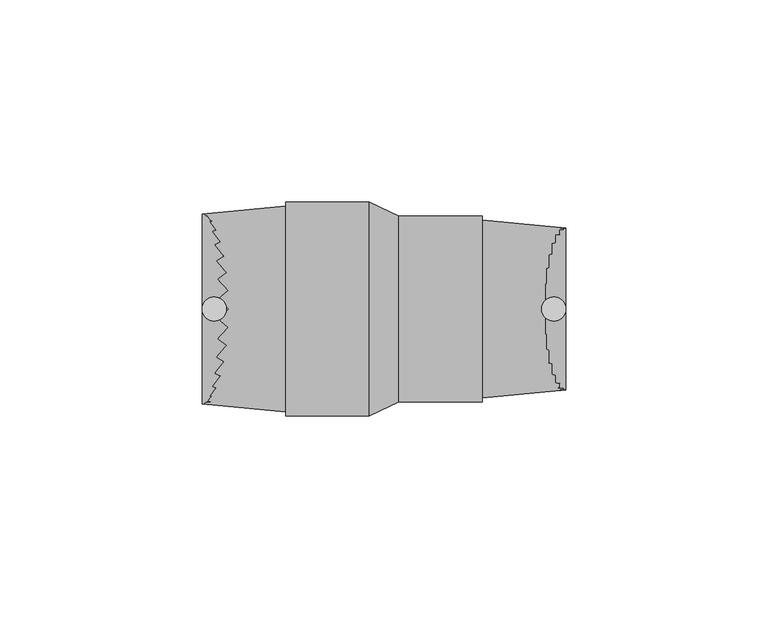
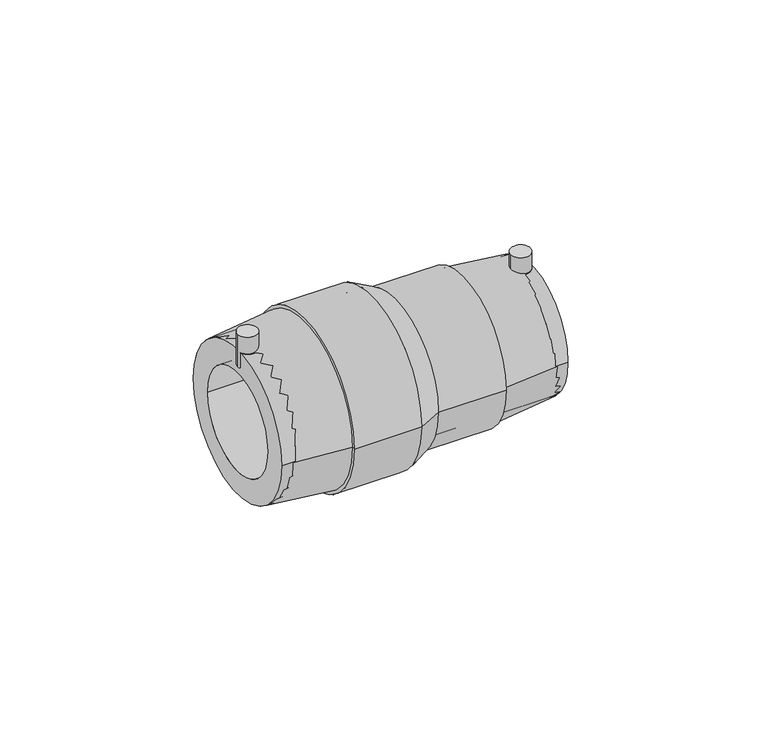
"""IFC4 building model written with IfcOpenShell, lengths in millimetres: pipe fitting geometry, EGB_VASEN_ PPR_Manguito reductor electrosoldable WXRD110 : Manguito reductor electrosoldable WXRD110."""

from ifc_helpers import new_model, si_unit, point, frame, frame_2d, origin, origin_2d, place, context, project, spatial, polyline, circle_curve, trimmed, segment, composite_curve, outline, extrude, source, transform, mapped, element, save
from ifc_brep_helpers import plane_surface, cylinder_surface, revolved_surface, advanced_brep


def pipe_fitting_251d8cda(model_context):
    return source(origin(), model_context, "Body", "SolidModel", [
        extrude(outline(composite_curve([segment(trimmed(circle_curve(frame_2d((42.0, 0.0)), 3.0), [point((39.0, 0.0))], [point((45.0, 0.0))], False, "CARTESIAN"), True, "CONTINUOUS"), segment(trimmed(circle_curve(frame_2d((42.0, 0.0)), 3.0), [point((45.0, 0.0))], [point((39.0, 0.0))], False, "CARTESIAN"), True, "CONTINUOUS")], self_intersect=False)), frame((0.0, 0.0, 14.5), z_axis=(0.0, 0.0, 1.0), x_axis=(1.0, 0.0, 0.0)), (0.0, 0.0, 1.0), 10.5),
        extrude(outline(composite_curve([segment(trimmed(circle_curve(frame_2d((-42.0, 0.0)), 3.0), [point((-45.0, 0.0))], [point((-39.0, 0.0))], False, "CARTESIAN"), True, "CONTINUOUS"), segment(trimmed(circle_curve(frame_2d((-42.0, 0.0)), 3.0), [point((-39.0, 0.0))], [point((-45.0, 0.0))], False, "CARTESIAN"), True, "CONTINUOUS")], self_intersect=False)), frame((0.0, 0.0, 18.0), z_axis=(0.0, 0.0, 1.0), x_axis=(1.0, 0.0, 0.0)), (0.0, 0.0, 1.0), 10.5),
        extrude(outline(composite_curve([segment(trimmed(circle_curve(origin_2d(), 20.0), [point((-20.0, 0.0))], [point((20.0, 0.0))], False, "CARTESIAN"), True, "CONTINUOUS"), segment(trimmed(circle_curve(origin_2d(), 20.0), [point((20.0, 0.0))], [point((-20.0, 0.0))], False, "CARTESIAN"), True, "CONTINUOUS")], self_intersect=False), holes=[composite_curve([segment(trimmed(circle_curve(origin_2d(), 12.5), [point((-12.5, 0.0))], [point((12.5, 0.0))], True, "CARTESIAN"), True, "CONTINUOUS"), segment(trimmed(circle_curve(origin_2d(), 12.5), [point((12.5, 0.0))], [point((-12.5, 0.0))], True, "CARTESIAN"), True, "CONTINUOUS")], self_intersect=False)]), frame((3.6, 0.0, 0.0), z_axis=(1.0, 0.0, 0.0), x_axis=(0.0, 1.0, 0.0)), (0.0, 0.0, 1.0), 41.4),
        extrude(outline(composite_curve([segment(trimmed(circle_curve(origin_2d(), 23.5), [point((-23.5, 0.0))], [point((23.5, 0.0))], False, "CARTESIAN"), True, "CONTINUOUS"), segment(trimmed(circle_curve(origin_2d(), 23.5), [point((23.5, 0.0))], [point((-23.5, 0.0))], False, "CARTESIAN"), True, "CONTINUOUS")], self_intersect=False), holes=[composite_curve([segment(trimmed(circle_curve(origin_2d(), 16.0), [point((-16.0, 0.0))], [point((16.0, 0.0))], True, "CARTESIAN"), True, "CONTINUOUS"), segment(trimmed(circle_curve(origin_2d(), 16.0), [point((16.0, 0.0))], [point((-16.0, 0.0))], True, "CARTESIAN"), True, "CONTINUOUS")], self_intersect=False)]), frame((-45.0, 0.0, 0.0), z_axis=(1.0, 0.0, 0.0), x_axis=(0.0, 1.0, 0.0)), (0.0, 0.0, 1.0), 41.4),
        advanced_brep(
        [(3.6, -20.0, 0.0), (3.6, 20.0, 0.0), (-3.6, -23.5, 0.0), (-3.6, 23.5, 0.0)],
        [
            (0, 1, circle_curve(frame((3.6, 0.0, 0.0), z_axis=(1.0, 0.0, 0.0), x_axis=(0.0, -1.0, 0.0)), 20.0)),
            (1, 0, circle_curve(frame((3.6, 0.0, 0.0), z_axis=(1.0, 0.0, 0.0), x_axis=(0.0, 1.0, 0.0)), 20.0)),
            (2, 3, circle_curve(frame((-3.6, 0.0, 0.0), z_axis=(-1.0, 0.0, 0.0), x_axis=(0.0, 1.0, 0.0)), 23.5)),
            (3, 2, circle_curve(frame((-3.6, 0.0, 0.0), z_axis=(-1.0, 0.0, 0.0), x_axis=(0.0, -1.0, 0.0)), 23.5)),
            (3, 1),
            (0, 2),
        ],
        [
            plane_surface(frame((3.6, 0.0, 0.0), z_axis=(1.0, 0.0, 0.0), x_axis=(0.0, 0.0, -1.0))),
            plane_surface(frame((-3.6, 0.0, 0.0), z_axis=(-1.0, 0.0, 0.0), x_axis=(0.0, 0.0, -1.0))),
            revolved_surface(polyline([(3.6000000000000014, -19.99999999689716, 0.0), (-3.6000000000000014, -23.5, 0.0)]), (44.7428571, 0.0, 0.0), (-1.0, 0.0, 0.0)),
            revolved_surface(polyline([(3.6000000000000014, 19.99999999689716, 0.0), (-3.6000000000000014, 23.5, 0.0)]), (44.7428571, 0.0, 0.0), (-1.0, 0.0, 0.0)),
        ],
        [
            (0, [[1, 2]]),
            (1, [[3, 4]]),
            (2, [[-4, 5, -1, 6]]),
            (3, [[-3, -6, -2, -5]]),
        ],
    ),
        advanced_brep(
        [(3.6, -20.0, 0.0), (3.6, 20.0, 0.0), (-3.6, 23.5, 0.0), (-3.6, -23.5, 0.0), (45.0, -20.0, 0.0), (45.0, 20.0, 0.0), (24.3, -22.0, 0.0), (24.3, 22.0, 0.0), (24.3, -23.0, 0.0), (24.3, 23.0, 0.0), (3.6, -23.0, 0.0), (3.6, 23.0, 0.0), (-3.6, -26.5, 0.0), (-3.6, 26.5, 0.0), (-24.3, -26.5, 0.0), (-24.3, 26.5, 0.0), (-24.3, -25.5, 0.0), (-24.3, 25.5, 0.0), (-45.0, -23.5, 0.0), (-45.0, 23.5, 0.0)],
        [
            (0, 1, circle_curve(frame((3.6, 0.0, 0.0), z_axis=(1.0, 0.0, 0.0), x_axis=(0.0, 1.0, 0.0)), 20.0)),
            (1, 2),
            (2, 3, circle_curve(frame((-3.6, 0.0, 0.0), z_axis=(-1.0, 0.0, 0.0), x_axis=(0.0, 1.0, 0.0)), 23.5)),
            (3, 0),
            (1, 0, circle_curve(frame((3.6, 0.0, 0.0), z_axis=(1.0, 0.0, 0.0), x_axis=(0.0, 1.0, 0.0)), 20.0)),
            (3, 2, circle_curve(frame((-3.6, 0.0, 0.0), z_axis=(-1.0, 0.0, 0.0), x_axis=(0.0, 1.0, 0.0)), 23.5)),
            (4, 5, circle_curve(frame((45.0, 0.0, 0.0), z_axis=(1.0, 0.0, 0.0), x_axis=(0.0, 1.0, 0.0)), 20.0)),
            (5, 1),
            (0, 4),
            (5, 4, circle_curve(frame((45.0, 0.0, 0.0), z_axis=(1.0, 0.0, 0.0), x_axis=(0.0, 1.0, 0.0)), 20.0)),
            (6, 7, circle_curve(frame((24.3, 0.0, 0.0), z_axis=(1.0, 0.0, 0.0), x_axis=(0.0, 1.0, 0.0)), 22.0)),
            (7, 5),
            (4, 6),
            (7, 6, circle_curve(frame((24.3, 0.0, 0.0), z_axis=(1.0, 0.0, 0.0), x_axis=(0.0, 1.0, 0.0)), 22.0)),
            (8, 9, circle_curve(frame((24.3, 0.0, 0.0), z_axis=(1.0, 0.0, 0.0), x_axis=(0.0, 1.0, 0.0)), 23.0)),
            (9, 7),
            (6, 8),
            (9, 8, circle_curve(frame((24.3, 0.0, 0.0), z_axis=(1.0, 0.0, 0.0), x_axis=(0.0, 1.0, 0.0)), 23.0)),
            (10, 11, circle_curve(frame((3.6, 0.0, 0.0), z_axis=(1.0, 0.0, 0.0), x_axis=(0.0, 1.0, 0.0)), 23.0)),
            (11, 9),
            (8, 10),
            (11, 10, circle_curve(frame((3.6, 0.0, 0.0), z_axis=(1.0, 0.0, 0.0), x_axis=(0.0, 1.0, 0.0)), 23.0)),
            (12, 13, circle_curve(frame((-3.6, 0.0, 0.0), z_axis=(1.0, 0.0, 0.0), x_axis=(0.0, 1.0, 0.0)), 26.5)),
            (13, 11),
            (10, 12),
            (13, 12, circle_curve(frame((-3.6, 0.0, 0.0), z_axis=(1.0, 0.0, 0.0), x_axis=(0.0, 1.0, 0.0)), 26.5)),
            (14, 15, circle_curve(frame((-24.3, 0.0, 0.0), z_axis=(1.0, 0.0, 0.0), x_axis=(0.0, 1.0, 0.0)), 26.5)),
            (15, 13),
            (12, 14),
            (15, 14, circle_curve(frame((-24.3, 0.0, 0.0), z_axis=(1.0, 0.0, 0.0), x_axis=(0.0, 1.0, 0.0)), 26.5)),
            (16, 17, circle_curve(frame((-24.3, 0.0, 0.0), z_axis=(1.0, 0.0, 0.0), x_axis=(0.0, 1.0, 0.0)), 25.5)),
            (17, 15),
            (14, 16),
            (17, 16, circle_curve(frame((-24.3, 0.0, 0.0), z_axis=(1.0, 0.0, 0.0), x_axis=(0.0, 1.0, 0.0)), 25.5)),
            (18, 19, circle_curve(frame((-45.0, 0.0, 0.0), z_axis=(1.0, 0.0, 0.0), x_axis=(0.0, 1.0, 0.0)), 23.5)),
            (19, 17),
            (16, 18),
            (19, 18, circle_curve(frame((-45.0, 0.0, 0.0), z_axis=(1.0, 0.0, 0.0), x_axis=(0.0, 1.0, 0.0)), 23.5)),
            (2, 19),
            (18, 3),
        ],
        [
            revolved_surface(polyline([(-3.6, 23.5, 0.0), (3.6, 20.0, 0.0)]), (-80.0, 0.0, 0.0), (-1.0, 0.0, 0.0)),
            revolved_surface(polyline([(3.5999999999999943, 20.0, 0.0), (45.0, 20.0, 0.0)]), (-80.0, 0.0, 0.0), (-1.0, 0.0, 0.0)),
            revolved_surface(polyline([(45.0, 20.0, 0.0), (24.3, 22.0, 0.0)]), (-80.0, 0.0, 0.0), (-1.0, 0.0, 0.0)),
            plane_surface(frame((24.3, 0.0, 0.0), z_axis=(1.0, 0.0, 0.0), x_axis=(0.0, 1.0, 0.0))),
            cylinder_surface(frame((-80.0, 0.0, 0.0), z_axis=(-1.0, 0.0, 0.0), x_axis=(0.0, 1.0, 0.0)), 23.0),
            revolved_surface(polyline([(3.6, 23.0, 0.0), (-3.6, 26.5, 0.0)]), (-80.0, 0.0, 0.0), (-1.0, 0.0, 0.0)),
            cylinder_surface(frame((-80.0, 0.0, 0.0), z_axis=(-1.0, 0.0, 0.0), x_axis=(0.0, 1.0, 0.0)), 26.5),
            plane_surface(frame((-24.3, 0.0, 0.0), z_axis=(-1.0, 0.0, 0.0), x_axis=(0.0, 1.0, 0.0))),
            revolved_surface(polyline([(-24.3, 25.5, 0.0), (-45.0, 23.5, 0.0)]), (-80.0, 0.0, 0.0), (-1.0, 0.0, 0.0)),
            revolved_surface(polyline([(-45.0, 23.5, 0.0), (-3.5999999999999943, 23.5, 0.0)]), (-80.0, 0.0, 0.0), (-1.0, 0.0, 0.0)),
        ],
        [
            (0, [[1, 2, 3, 4]]),
            (0, [[5, -4, 6, -2]]),
            (1, [[7, 8, -1, 9]]),
            (1, [[10, -9, -5, -8]]),
            (2, [[11, 12, -7, 13]]),
            (2, [[14, -13, -10, -12]]),
            (3, [[15, 16, -11, 17]]),
            (3, [[18, -17, -14, -16]]),
            (4, [[19, 20, -15, 21]]),
            (4, [[22, -21, -18, -20]]),
            (5, [[23, 24, -19, 25]]),
            (5, [[26, -25, -22, -24]]),
            (6, [[27, 28, -23, 29]]),
            (6, [[30, -29, -26, -28]]),
            (7, [[31, 32, -27, 33]]),
            (7, [[34, -33, -30, -32]]),
            (8, [[35, 36, -31, 37]]),
            (8, [[38, -37, -34, -36]]),
            (9, [[-3, 39, -35, 40]]),
            (9, [[-6, -40, -38, -39]]),
        ],
    ),
    ])


if __name__ == "__main__":
    model = new_model("IFC4")
    model_context = context("Model", 3, world=origin())
    ifc_project = project(units=[si_unit("LENGTHUNIT", "METRE", prefix="MILLI")], contexts=[model_context])
    site = spatial("IfcSite", under=ifc_project)
    building = spatial("IfcBuilding", under=site)
    placement = place(None, origin())
    pipe_fitting_shape = pipe_fitting_251d8cda(model_context)
    element("IfcPipeFitting", 1, ObjectType="EGB_VASEN_ PPR_Manguito reductor electrosoldable WXRD110 : Manguito reductor electrosoldable WXRD110", at=placement, inside=building, context=model_context, shape_type="MappedRepresentation", body=[
        mapped(pipe_fitting_shape, transform((0.0, 0.0, 0.0), x_axis=(1.0, 0.0, 0.0), y_axis=(0.0, 1.0, 0.0), z_axis=(0.0, 0.0, 1.0))),
    ])
    save(model, "model.ifc")
